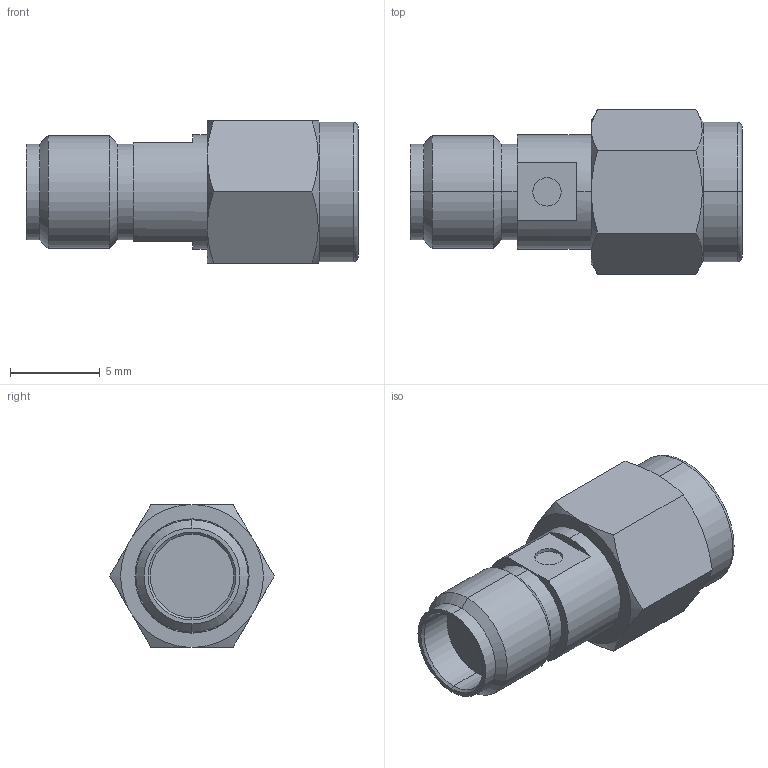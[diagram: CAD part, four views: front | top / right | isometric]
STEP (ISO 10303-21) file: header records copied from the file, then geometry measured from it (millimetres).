
FILE_DESCRIPTION (( 'STEP AP214' ), '1' );
FILE_NAME ('SF2997-6003.STEP', '2015-07-17T18:49:56', ( 'image' ), ( '' ), 'SwSTEP 2.0', 'SolidWorks 2014', '' );
FILE_SCHEMA (( 'AUTOMOTIVE_DESIGN' ));
Length unit declared in the file: inch
Products named in the file (1): SF2997-6003
Bounding box: 18.47 x 9.15 x 7.92 mm (x, y, z)
Volume: 587.9 mm3; surface area: 674 mm2
Topology: 1 solids, 1 shells, 70 faces, 154 edges, 94 vertices
Faces by surface type: cylinder 26, cone 22, plane 20, torus 2
Entity records: 2901 total; most frequent: CARTESIAN_POINT 427, DIRECTION 348, ORIENTED_EDGE 308, EDGE_CURVE 154, AXIS2_PLACEMENT_3D 143, VERTEX_POINT 94, EDGE_LOOP 78, CIRCLE 72
